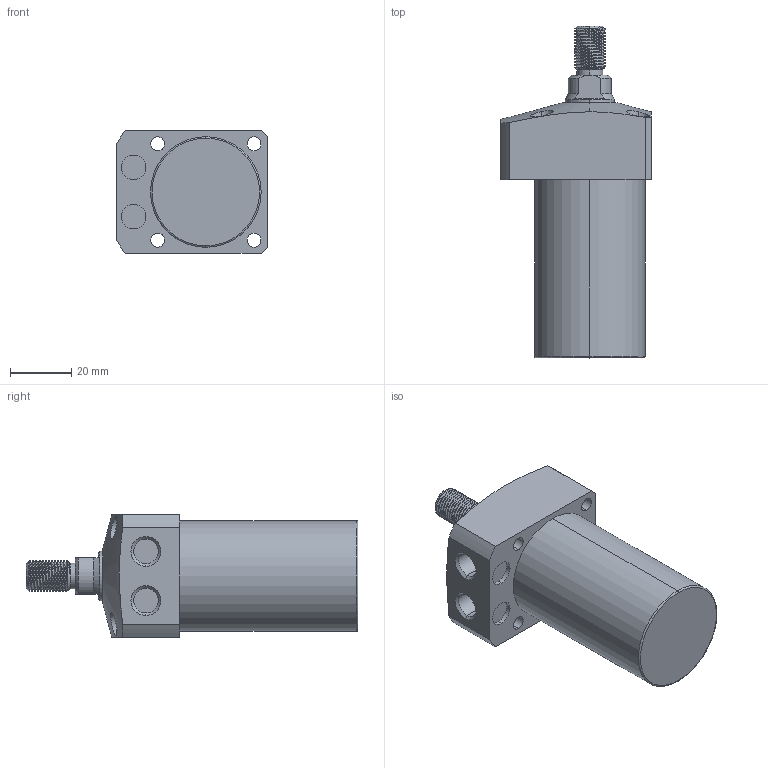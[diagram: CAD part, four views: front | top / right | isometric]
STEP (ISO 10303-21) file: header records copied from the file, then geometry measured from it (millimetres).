
FILE_DESCRIPTION (( 'STEP AP203' ), '1' );
FILE_NAME ('CLL-036CT-050.STEP', '2020-01-08T08:44:06', ( '' ), ( '' ), 'SwSTEP 2.0', 'SolidWorks 2015', '' );
FILE_SCHEMA (( 'CONFIG_CONTROL_DESIGN' ));
Length unit declared in the file: millimetre
Products named in the file (1): CLL-036CT-050
Bounding box: 49 x 108 x 40 mm (x, y, z)
Volume: 101934.5 mm3; surface area: 17223.4 mm2
Topology: 1 solids, 1 shells, 103 faces, 256 edges, 166 vertices
Faces by surface type: cylinder 61, plane 23, cone 15, torus 2, bspline 2
Entity records: 5014 total; most frequent: CARTESIAN_POINT 2618, ORIENTED_EDGE 512, DIRECTION 457, EDGE_CURVE 256, AXIS2_PLACEMENT_3D 184, VERTEX_POINT 166, EDGE_LOOP 122, FACE_OUTER_BOUND 103
